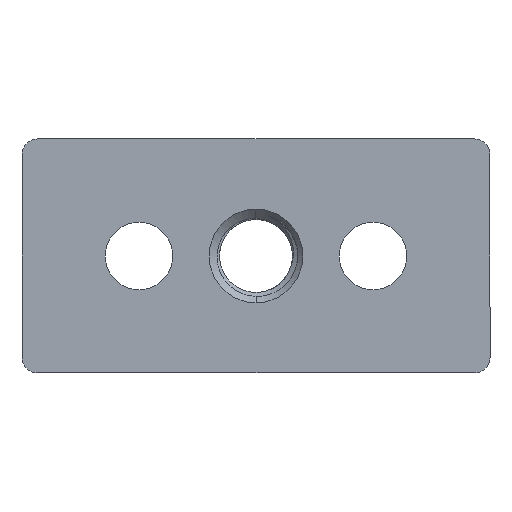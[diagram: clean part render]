
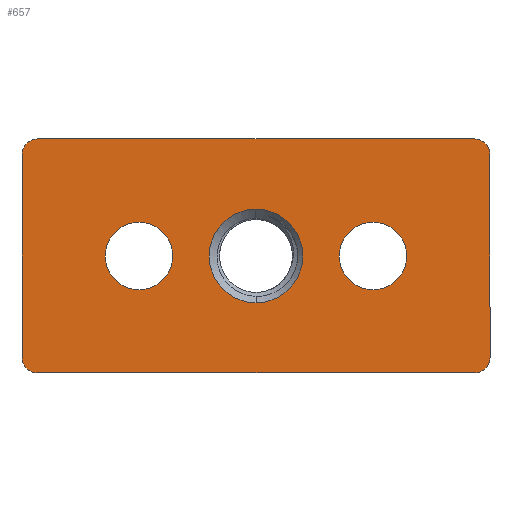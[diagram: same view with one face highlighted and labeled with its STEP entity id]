
A CAD part, front view. The second image highlights one B-rep face of the part: STEP entity #657.
In plain terms, the highlighted planar face has unit normal (0, -1, 0).
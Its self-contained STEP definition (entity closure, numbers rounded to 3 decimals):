
#47 = DIRECTION ( 'NONE',  ( 0., -1., 0. ) ) ;
#61 = AXIS2_PLACEMENT_3D ( 'NONE', #2583, #1878, #2298 ) ;
#65 = AXIS2_PLACEMENT_3D ( 'NONE', #771, #3796, #3521 ) ;
#96 = EDGE_CURVE ( 'NONE', #1764, #4056, #3162, .T. ) ;
#105 = VERTEX_POINT ( 'NONE', #2207 ) ;
#116 = AXIS2_PLACEMENT_3D ( 'NONE', #1077, #3368, #1343 ) ;
#147 = CARTESIAN_POINT ( 'NONE',  ( -42., 0., -19.5 ) ) ;
#235 = VERTEX_POINT ( 'NONE', #3678 ) ;
#335 = LINE ( 'NONE', #3344, #3434 ) ;
#341 = AXIS2_PLACEMENT_3D ( 'NONE', #4182, #47, #1844 ) ;
#362 = EDGE_CURVE ( 'NONE', #4056, #1764, #627, .T. ) ;
#396 = ORIENTED_EDGE ( 'NONE', *, *, #1373, .F. ) ;
#401 = FACE_BOUND ( 'NONE', #1377, .T. ) ;
#419 = EDGE_LOOP ( 'NONE', ( #3291, #396 ) ) ;
#464 = DIRECTION ( 'NONE',  ( 0., 0., -1. ) ) ;
#509 = EDGE_CURVE ( 'NONE', #2685, #2164, #1055, .T. ) ;
#551 = AXIS2_PLACEMENT_3D ( 'NONE', #3305, #676, #2013 ) ;
#615 = ORIENTED_EDGE ( 'NONE', *, *, #509, .F. ) ;
#627 = CIRCLE ( 'NONE', #4139, 6.5 ) ;
#629 = CIRCLE ( 'NONE', #3103, 3. ) ;
#657 = ADVANCED_FACE ( 'NONE', ( #401, #2731, #1437, #2774 ), #2517, .T. ) ;
#671 = CARTESIAN_POINT ( 'NONE',  ( 0., 0., -9. ) ) ;
#676 = DIRECTION ( 'NONE',  ( 0., 1., 0. ) ) ;
#731 = VERTEX_POINT ( 'NONE', #4255 ) ;
#771 = CARTESIAN_POINT ( 'NONE',  ( 0., 0., 0. ) ) ;
#809 = DIRECTION ( 'NONE',  ( 0., 1., 0. ) ) ;
#825 = ORIENTED_EDGE ( 'NONE', *, *, #4234, .F. ) ;
#845 = CARTESIAN_POINT ( 'NONE',  ( 22.5, 0., 6.5 ) ) ;
#857 = DIRECTION ( 'NONE',  ( 0., 0., -1. ) ) ;
#917 = CARTESIAN_POINT ( 'NONE',  ( -22.5, 0., 0. ) ) ;
#951 = VERTEX_POINT ( 'NONE', #2693 ) ;
#952 = CARTESIAN_POINT ( 'NONE',  ( -22.5, 0., 0. ) ) ;
#953 = VERTEX_POINT ( 'NONE', #3002 ) ;
#992 = EDGE_CURVE ( 'NONE', #731, #2685, #3235, .T. ) ;
#1033 = DIRECTION ( 'NONE',  ( 0., 0., -1. ) ) ;
#1055 = LINE ( 'NONE', #1193, #1631 ) ;
#1077 = CARTESIAN_POINT ( 'NONE',  ( 42., 0., 19.5 ) ) ;
#1193 = CARTESIAN_POINT ( 'NONE',  ( -42., 0., 22.5 ) ) ;
#1223 = AXIS2_PLACEMENT_3D ( 'NONE', #4333, #1346, #1657 ) ;
#1343 = DIRECTION ( 'NONE',  ( 0., 0., 1. ) ) ;
#1346 = DIRECTION ( 'NONE',  ( 0., 1., 0. ) ) ;
#1366 = CARTESIAN_POINT ( 'NONE',  ( 45., 0., -19.5 ) ) ;
#1373 = EDGE_CURVE ( 'NONE', #1519, #2082, #4216, .T. ) ;
#1377 = EDGE_LOOP ( 'NONE', ( #2738, #3449 ) ) ;
#1416 = DIRECTION ( 'NONE',  ( 0., -1., 0. ) ) ;
#1426 = DIRECTION ( 'NONE',  ( 0., 0., -1. ) ) ;
#1437 = FACE_BOUND ( 'NONE', #3705, .T. ) ;
#1440 = CARTESIAN_POINT ( 'NONE',  ( 22.5, 0., 0. ) ) ;
#1519 = VERTEX_POINT ( 'NONE', #4099 ) ;
#1611 = CIRCLE ( 'NONE', #116, 3. ) ;
#1631 = VECTOR ( 'NONE', #1863, 1000. ) ;
#1657 = DIRECTION ( 'NONE',  ( 0., 0., -1. ) ) ;
#1682 = CIRCLE ( 'NONE', #2734, 9. ) ;
#1685 = CARTESIAN_POINT ( 'NONE',  ( 0., 0., 9. ) ) ;
#1732 = ORIENTED_EDGE ( 'NONE', *, *, #2838, .F. ) ;
#1764 = VERTEX_POINT ( 'NONE', #4322 ) ;
#1782 = CARTESIAN_POINT ( 'NONE',  ( 42., 0., 22.5 ) ) ;
#1840 = DIRECTION ( 'NONE',  ( 0., 0., 1. ) ) ;
#1841 = AXIS2_PLACEMENT_3D ( 'NONE', #917, #3604, #3166 ) ;
#1844 = DIRECTION ( 'NONE',  ( 0., 0., -1. ) ) ;
#1863 = DIRECTION ( 'NONE',  ( 1., 0., 0. ) ) ;
#1878 = DIRECTION ( 'NONE',  ( 0., -1., 0. ) ) ;
#1934 = EDGE_CURVE ( 'NONE', #2082, #1519, #4076, .T. ) ;
#1948 = ORIENTED_EDGE ( 'NONE', *, *, #2869, .F. ) ;
#1950 = ORIENTED_EDGE ( 'NONE', *, *, #2174, .F. ) ;
#2013 = DIRECTION ( 'NONE',  ( 0., 0., 1. ) ) ;
#2082 = VERTEX_POINT ( 'NONE', #3090 ) ;
#2152 = EDGE_CURVE ( 'NONE', #2820, #3772, #3859, .T. ) ;
#2164 = VERTEX_POINT ( 'NONE', #1782 ) ;
#2174 = EDGE_CURVE ( 'NONE', #2394, #235, #629, .T. ) ;
#2207 = CARTESIAN_POINT ( 'NONE',  ( 42., 0., -22.5 ) ) ;
#2262 = EDGE_CURVE ( 'NONE', #3772, #2820, #1682, .T. ) ;
#2281 = EDGE_LOOP ( 'NONE', ( #825, #1732, #1948, #615, #3421, #2382, #1950, #3777 ) ) ;
#2298 = DIRECTION ( 'NONE',  ( 0., 0., -1. ) ) ;
#2306 = DIRECTION ( 'NONE',  ( 0., -1., 0. ) ) ;
#2382 = ORIENTED_EDGE ( 'NONE', *, *, #2715, .F. ) ;
#2394 = VERTEX_POINT ( 'NONE', #3482 ) ;
#2422 = LINE ( 'NONE', #1366, #3369 ) ;
#2484 = LINE ( 'NONE', #3528, #2664 ) ;
#2517 = PLANE ( 'NONE',  #341 ) ;
#2530 = ORIENTED_EDGE ( 'NONE', *, *, #96, .F. ) ;
#2583 = CARTESIAN_POINT ( 'NONE',  ( 22.5, 0., 0. ) ) ;
#2664 = VECTOR ( 'NONE', #3098, 1000. ) ;
#2685 = VERTEX_POINT ( 'NONE', #3646 ) ;
#2693 = CARTESIAN_POINT ( 'NONE',  ( 45., 0., -19.5 ) ) ;
#2715 = EDGE_CURVE ( 'NONE', #235, #731, #335, .T. ) ;
#2731 = FACE_BOUND ( 'NONE', #419, .T. ) ;
#2734 = AXIS2_PLACEMENT_3D ( 'NONE', #4157, #809, #1426 ) ;
#2738 = ORIENTED_EDGE ( 'NONE', *, *, #2152, .T. ) ;
#2774 = FACE_OUTER_BOUND ( 'NONE', #2281, .T. ) ;
#2804 = DIRECTION ( 'NONE',  ( 0., 1., 0. ) ) ;
#2820 = VERTEX_POINT ( 'NONE', #671 ) ;
#2838 = EDGE_CURVE ( 'NONE', #953, #951, #2422, .T. ) ;
#2869 = EDGE_CURVE ( 'NONE', #2164, #953, #1611, .T. ) ;
#2989 = EDGE_CURVE ( 'NONE', #105, #2394, #2484, .T. ) ;
#3002 = CARTESIAN_POINT ( 'NONE',  ( 45., 0., 19.5 ) ) ;
#3090 = CARTESIAN_POINT ( 'NONE',  ( -22.5, 0., 6.5 ) ) ;
#3098 = DIRECTION ( 'NONE',  ( -1., 0., 0. ) ) ;
#3103 = AXIS2_PLACEMENT_3D ( 'NONE', #147, #2804, #1840 ) ;
#3162 = CIRCLE ( 'NONE', #61, 6.5 ) ;
#3166 = DIRECTION ( 'NONE',  ( 0., 0., -1. ) ) ;
#3235 = CIRCLE ( 'NONE', #551, 3. ) ;
#3291 = ORIENTED_EDGE ( 'NONE', *, *, #1934, .F. ) ;
#3305 = CARTESIAN_POINT ( 'NONE',  ( -42., 0., 19.5 ) ) ;
#3344 = CARTESIAN_POINT ( 'NONE',  ( -45., 0., -19.5 ) ) ;
#3368 = DIRECTION ( 'NONE',  ( 0., 1., 0. ) ) ;
#3369 = VECTOR ( 'NONE', #1033, 1000. ) ;
#3421 = ORIENTED_EDGE ( 'NONE', *, *, #992, .F. ) ;
#3434 = VECTOR ( 'NONE', #4055, 1000. ) ;
#3449 = ORIENTED_EDGE ( 'NONE', *, *, #2262, .T. ) ;
#3482 = CARTESIAN_POINT ( 'NONE',  ( -42., 0., -22.5 ) ) ;
#3521 = DIRECTION ( 'NONE',  ( 0., 0., -1. ) ) ;
#3528 = CARTESIAN_POINT ( 'NONE',  ( -42., 0., -22.5 ) ) ;
#3581 = AXIS2_PLACEMENT_3D ( 'NONE', #952, #2306, #857 ) ;
#3604 = DIRECTION ( 'NONE',  ( 0., -1., 0. ) ) ;
#3646 = CARTESIAN_POINT ( 'NONE',  ( -42., 0., 22.5 ) ) ;
#3678 = CARTESIAN_POINT ( 'NONE',  ( -45., 0., -19.5 ) ) ;
#3705 = EDGE_LOOP ( 'NONE', ( #3943, #2530 ) ) ;
#3772 = VERTEX_POINT ( 'NONE', #1685 ) ;
#3777 = ORIENTED_EDGE ( 'NONE', *, *, #2989, .F. ) ;
#3796 = DIRECTION ( 'NONE',  ( 0., 1., 0. ) ) ;
#3859 = CIRCLE ( 'NONE', #65, 9. ) ;
#3943 = ORIENTED_EDGE ( 'NONE', *, *, #362, .F. ) ;
#4055 = DIRECTION ( 'NONE',  ( 0., 0., 1. ) ) ;
#4056 = VERTEX_POINT ( 'NONE', #845 ) ;
#4076 = CIRCLE ( 'NONE', #3581, 6.5 ) ;
#4099 = CARTESIAN_POINT ( 'NONE',  ( -22.5, 0., -6.5 ) ) ;
#4139 = AXIS2_PLACEMENT_3D ( 'NONE', #1440, #1416, #464 ) ;
#4157 = CARTESIAN_POINT ( 'NONE',  ( 0., 0., 0. ) ) ;
#4166 = CIRCLE ( 'NONE', #1223, 3. ) ;
#4182 = CARTESIAN_POINT ( 'NONE',  ( 42., 0., -19.5 ) ) ;
#4216 = CIRCLE ( 'NONE', #1841, 6.5 ) ;
#4234 = EDGE_CURVE ( 'NONE', #951, #105, #4166, .T. ) ;
#4255 = CARTESIAN_POINT ( 'NONE',  ( -45., 0., 19.5 ) ) ;
#4322 = CARTESIAN_POINT ( 'NONE',  ( 22.5, 0., -6.5 ) ) ;
#4333 = CARTESIAN_POINT ( 'NONE',  ( 42., 0., -19.5 ) ) ;
